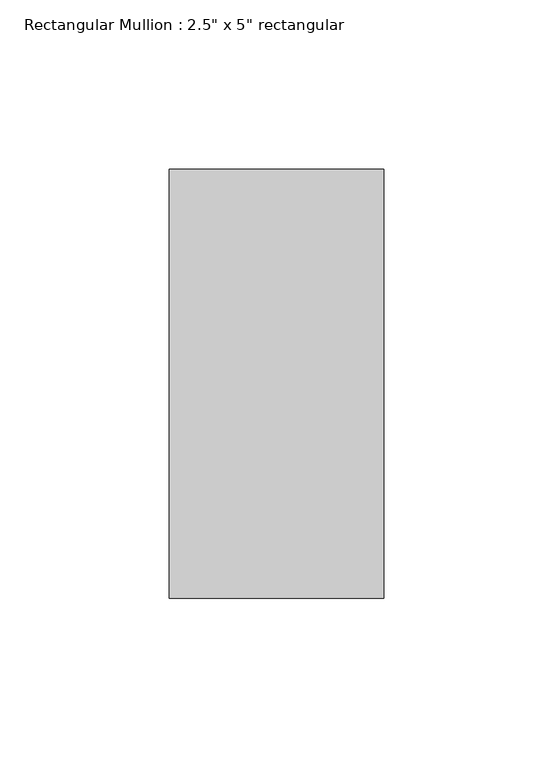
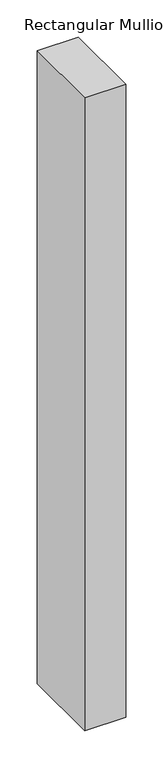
"""IFC4 building model written with IfcOpenShell, lengths in millimetres: member geometry."""

from ifc_helpers import new_model, si_unit, frame, origin, place, context, project, spatial, polyline, outline, extrude, source, transform, mapped, element, save


def member_c70f70ef(model_context):
    return source(origin(), model_context, "Body", "SweptSolid", [
        extrude(outline(polyline([(31.75, 63.5), (31.75, -63.5), (-31.75, -63.5), (-31.75, 63.5), (31.75, 63.5)])), frame((0.0, 0.0, -1036.8642859), z_axis=(0.0, 0.0, 1.0), x_axis=(1.0, 0.0, 0.0)), (0.0, 0.0, 1.0), 1036.8642859),
    ])


if __name__ == "__main__":
    model = new_model("IFC4")
    model_context = context("Model", 3, world=origin())
    ifc_project = project(units=[si_unit("LENGTHUNIT", "METRE", prefix="MILLI")], contexts=[model_context])
    site = spatial("IfcSite", under=ifc_project)
    building = spatial("IfcBuilding", under=site)
    placement = place(None, origin())
    member_shape = member_c70f70ef(model_context)
    element("IfcMember", 1, ObjectType="Rectangular Mullion : 2.5\" x 5\" rectangular", at=placement, inside=building, context=model_context, shape_type="MappedRepresentation", body=[
        mapped(member_shape, transform((0.0, 0.0, 0.0), x_axis=(1.0, 0.0, 0.0), y_axis=(0.0, 1.0, 0.0), z_axis=(0.0, 0.0, 1.0))),
    ])
    save(model, "model.ifc")
